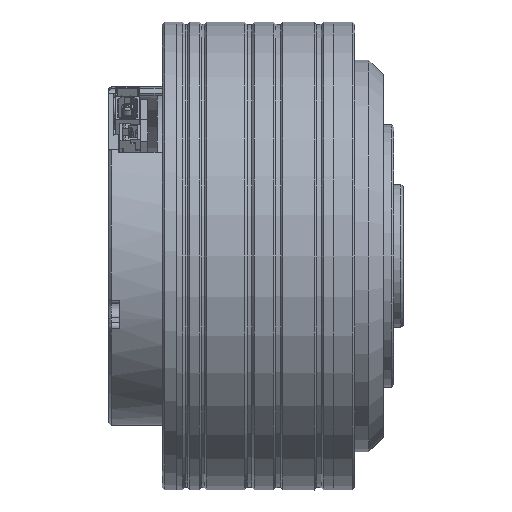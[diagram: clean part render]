
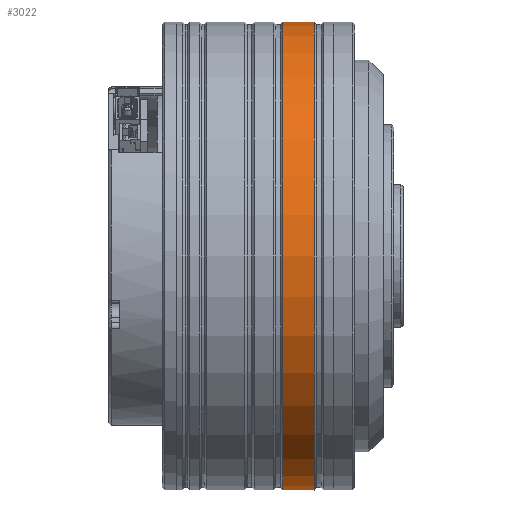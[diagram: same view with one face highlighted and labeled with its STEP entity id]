
A CAD part, front view. The second image highlights one B-rep face of the part: STEP entity #3022.
In plain terms, the highlighted cylindrical face has radius 49 mm (diameter 98 mm), a full revolution.
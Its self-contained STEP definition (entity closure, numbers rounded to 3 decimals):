
#1603 = DIRECTION ( 'NONE',  ( 0., 0., -1. ) ) ;
#2993 = FACE_OUTER_BOUND ( 'NONE', #94284, .T. ) ;
#3022 = ADVANCED_FACE ( 'NONE', ( #83186, #2993 ), #73852, .T. ) ;
#6463 = AXIS2_PLACEMENT_3D ( 'NONE', #73265, #109419, #29410 ) ;
#23448 = DIRECTION ( 'NONE',  ( 1., 0., 0. ) ) ;
#24785 = CIRCLE ( 'NONE', #114357, 49. ) ;
#28560 = CARTESIAN_POINT ( 'NONE',  ( -6., 0., 0. ) ) ;
#29410 = DIRECTION ( 'NONE',  ( 0., 0., -1. ) ) ;
#36924 = ORIENTED_EDGE ( 'NONE', *, *, #39805, .F. ) ;
#37419 = AXIS2_PLACEMENT_3D ( 'NONE', #104113, #23448, #48075 ) ;
#39805 = EDGE_CURVE ( 'NONE', #44804, #44804, #24785, .T. ) ;
#44804 = VERTEX_POINT ( 'NONE', #80446 ) ;
#48075 = DIRECTION ( 'NONE',  ( 0., 0., -1. ) ) ;
#50893 = EDGE_CURVE ( 'NONE', #73876, #73876, #104549, .T. ) ;
#52246 = ORIENTED_EDGE ( 'NONE', *, *, #50893, .T. ) ;
#53182 = DIRECTION ( 'NONE',  ( 1., 0., 0. ) ) ;
#56080 = EDGE_LOOP ( 'NONE', ( #52246 ) ) ;
#73265 = CARTESIAN_POINT ( 'NONE',  ( -30.45, 0., 0. ) ) ;
#73852 = CYLINDRICAL_SURFACE ( 'NONE', #6463, 49. ) ;
#73876 = VERTEX_POINT ( 'NONE', #109446 ) ;
#80446 = CARTESIAN_POINT ( 'NONE',  ( -6., 0., -49. ) ) ;
#83186 = FACE_OUTER_BOUND ( 'NONE', #56080, .T. ) ;
#94284 = EDGE_LOOP ( 'NONE', ( #36924 ) ) ;
#104113 = CARTESIAN_POINT ( 'NONE',  ( -12.5, 0., 0. ) ) ;
#104549 = CIRCLE ( 'NONE', #37419, 49. ) ;
#109419 = DIRECTION ( 'NONE',  ( 1., 0., 0. ) ) ;
#109446 = CARTESIAN_POINT ( 'NONE',  ( -12.5, 0., -49. ) ) ;
#114357 = AXIS2_PLACEMENT_3D ( 'NONE', #28560, #53182, #1603 ) ;
